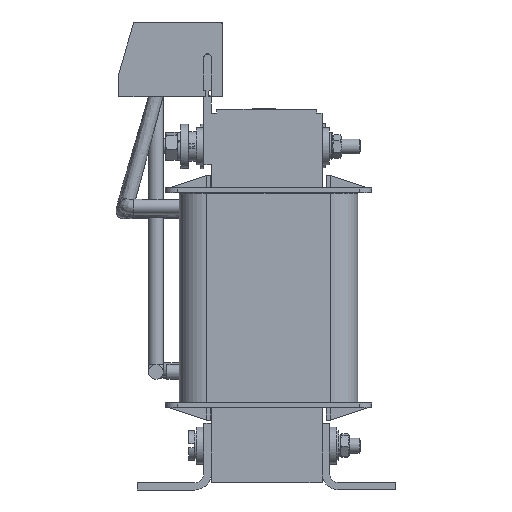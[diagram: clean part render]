
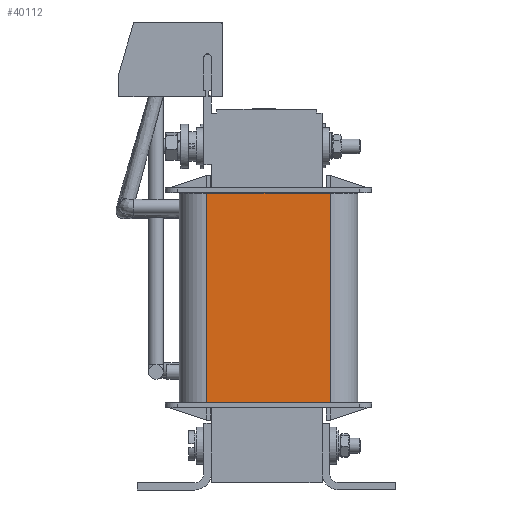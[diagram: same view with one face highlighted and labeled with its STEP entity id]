
A CAD part, left-side view. The second image highlights one B-rep face of the part: STEP entity #40112.
In plain terms, the highlighted planar face has unit normal (-1, 0, 0).
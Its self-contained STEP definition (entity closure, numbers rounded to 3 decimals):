
#40002=CARTESIAN_POINT('',(-69.,29.75,46.35));
#40003=VERTEX_POINT('',#40002);
#40011=CARTESIAN_POINT('',(-69.,-3.75,46.35));
#40012=VERTEX_POINT('',#40011);
#40013=CARTESIAN_POINT('',(-69.,29.75,46.35));
#40014=DIRECTION('',(0.0,-1.0,0.0));
#40015=VECTOR('',#40014,33.5);
#40016=LINE('',#40013,#40015);
#40017=EDGE_CURVE('',#40003,#40012,#40016,.T.);
#40069=CARTESIAN_POINT('',(-69.,-3.75,-10.35));
#40070=VERTEX_POINT('',#40069);
#40080=CARTESIAN_POINT('',(-69.,-3.75,46.35));
#40081=DIRECTION('',(0.0,0.0,-1.0));
#40082=VECTOR('',#40081,56.7);
#40083=LINE('',#40080,#40082);
#40084=EDGE_CURVE('',#40012,#40070,#40083,.T.);
#40089=CARTESIAN_POINT('',(-69.,37.15,18.));
#40090=DIRECTION('',(-1.0,0.0,0.0));
#40091=DIRECTION('',(0.0,0.0,1.0));
#40092=AXIS2_PLACEMENT_3D('',#40089,#40090,#40091);
#40093=PLANE('',#40092);
#40094=ORIENTED_EDGE('',*,*,#40084,.F.);
#40095=ORIENTED_EDGE('',*,*,#40017,.F.);
#40096=CARTESIAN_POINT('',(-69.,29.75,-10.35));
#40097=VERTEX_POINT('',#40096);
#40098=CARTESIAN_POINT('',(-69.,29.75,-10.35));
#40099=DIRECTION('',(0.0,0.0,1.0));
#40100=VECTOR('',#40099,56.7);
#40101=LINE('',#40098,#40100);
#40102=EDGE_CURVE('',#40097,#40003,#40101,.T.);
#40103=ORIENTED_EDGE('',*,*,#40102,.F.);
#40104=CARTESIAN_POINT('',(-69.,29.75,-10.35));
#40105=DIRECTION('',(0.0,-1.0,0.0));
#40106=VECTOR('',#40105,33.5);
#40107=LINE('',#40104,#40106);
#40108=EDGE_CURVE('',#40097,#40070,#40107,.T.);
#40109=ORIENTED_EDGE('',*,*,#40108,.T.);
#40110=EDGE_LOOP('',(#40094,#40095,#40103,#40109));
#40111=FACE_OUTER_BOUND('',#40110,.T.);
#40112=ADVANCED_FACE('',(#40111),#40093,.T.);
